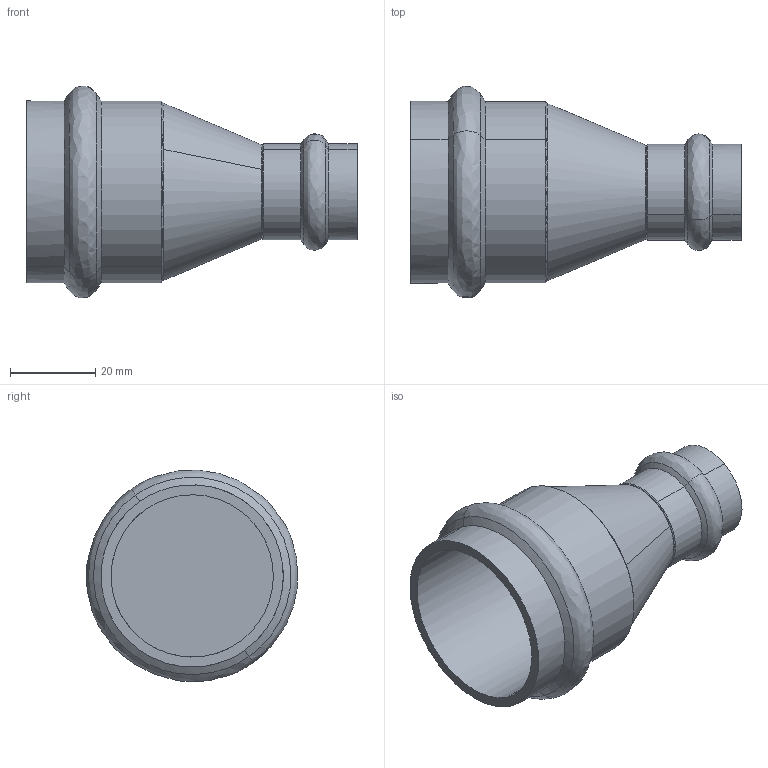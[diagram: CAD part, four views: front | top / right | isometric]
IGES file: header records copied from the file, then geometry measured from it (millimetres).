
Start section: 3D InterOp IGES (Version 25 0 1), Spatial Corp. Copyright (c) 1999-2007.
Global section: file name: pim0004380.igs; native system: Spatial Corp.; preprocessor: 3D InterOp ACIS/IGES; author: Cad-Pim; organization: TransMagic, Inc.; date: 20150430.132012; units: millimetre
Bounding box: 77.5 x 49.57 x 49.62 mm (x, y, z)
Volume: 36114.6 mm3; surface area: 16095.7 mm2
Topology: 1 solids, 1 shells, 38 faces, 100 edges, 66 vertices
Faces by surface type: bspline 14, cylinder 12, cone 12
